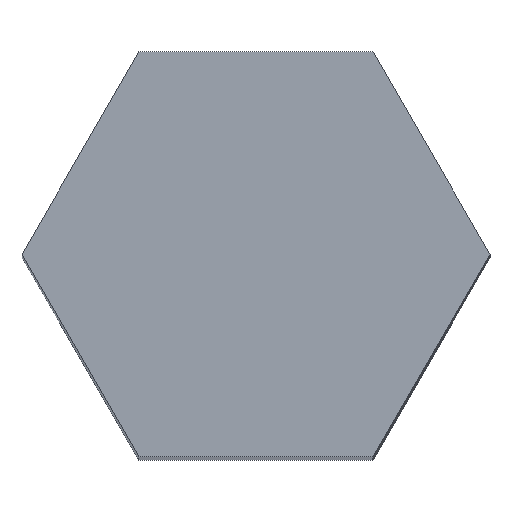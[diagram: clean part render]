
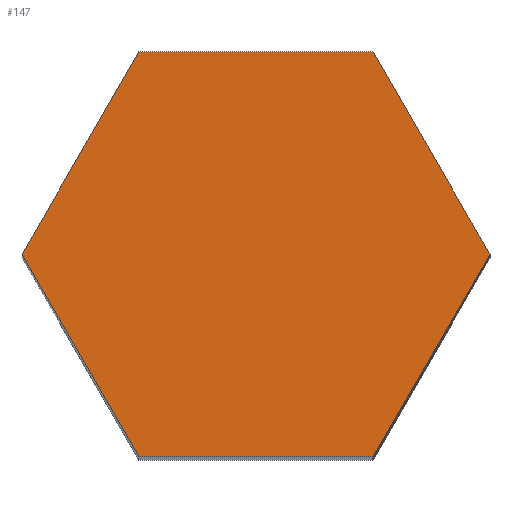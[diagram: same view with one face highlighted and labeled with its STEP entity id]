
A CAD part, top view. The second image highlights one B-rep face of the part: STEP entity #147.
In plain terms, the highlighted planar face has unit normal (0, 0, 1).
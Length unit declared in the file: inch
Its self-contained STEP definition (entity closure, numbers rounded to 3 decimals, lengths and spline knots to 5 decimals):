
#21=FACE_OUTER_BOUND('',#29,.T.);
#29=EDGE_LOOP('',(#121,#122,#123,#124,#125,#126));
#33=LINE('',#221,#51);
#36=LINE('',#227,#54);
#39=LINE('',#233,#57);
#42=LINE('',#239,#60);
#45=LINE('',#245,#63);
#48=LINE('',#249,#66);
#51=VECTOR('',#183,0.3937);
#54=VECTOR('',#188,0.3937);
#57=VECTOR('',#193,0.3937);
#60=VECTOR('',#198,0.3937);
#63=VECTOR('',#203,0.3937);
#66=VECTOR('',#208,0.3937);
#69=VERTEX_POINT('',#218);
#70=VERTEX_POINT('',#220);
#72=VERTEX_POINT('',#226);
#74=VERTEX_POINT('',#232);
#76=VERTEX_POINT('',#238);
#78=VERTEX_POINT('',#244);
#81=EDGE_CURVE('',#70,#69,#33,.T.);
#84=EDGE_CURVE('',#72,#70,#36,.T.);
#87=EDGE_CURVE('',#74,#72,#39,.T.);
#90=EDGE_CURVE('',#76,#74,#42,.T.);
#93=EDGE_CURVE('',#78,#76,#45,.T.);
#96=EDGE_CURVE('',#69,#78,#48,.T.);
#121=ORIENTED_EDGE('',*,*,#96,.T.);
#122=ORIENTED_EDGE('',*,*,#93,.T.);
#123=ORIENTED_EDGE('',*,*,#90,.T.);
#124=ORIENTED_EDGE('',*,*,#87,.T.);
#125=ORIENTED_EDGE('',*,*,#84,.T.);
#126=ORIENTED_EDGE('',*,*,#81,.T.);
#139=PLANE('',#175);
#147=ADVANCED_FACE('',(#21),#139,.T.);
#175=AXIS2_PLACEMENT_3D('',#250,#209,#210);
#183=DIRECTION('',(-1.,0.,0.));
#188=DIRECTION('',(-0.5,0.866,0.));
#193=DIRECTION('',(0.5,0.866,0.));
#198=DIRECTION('',(1.,0.,0.));
#203=DIRECTION('',(0.5,-0.866,0.));
#208=DIRECTION('',(-0.5,-0.866,0.));
#209=DIRECTION('center_axis',(0.,0.,1.));
#210=DIRECTION('ref_axis',(1.,0.,0.));
#218=CARTESIAN_POINT('',(-0.34095,0.59055,6.));
#220=CARTESIAN_POINT('',(0.34095,0.59055,6.));
#221=CARTESIAN_POINT('',(0.34095,0.59055,6.));
#226=CARTESIAN_POINT('',(0.68191,0.,6.));
#227=CARTESIAN_POINT('',(0.68191,0.,6.));
#232=CARTESIAN_POINT('',(0.34095,-0.59055,6.));
#233=CARTESIAN_POINT('',(0.34095,-0.59055,6.));
#238=CARTESIAN_POINT('',(-0.34095,-0.59055,6.));
#239=CARTESIAN_POINT('',(-0.34095,-0.59055,6.));
#244=CARTESIAN_POINT('',(-0.68191,0.,6.));
#245=CARTESIAN_POINT('',(-0.68191,0.,6.));
#249=CARTESIAN_POINT('',(-0.34095,0.59055,6.));
#250=CARTESIAN_POINT('Origin',(0.,0.,6.));
